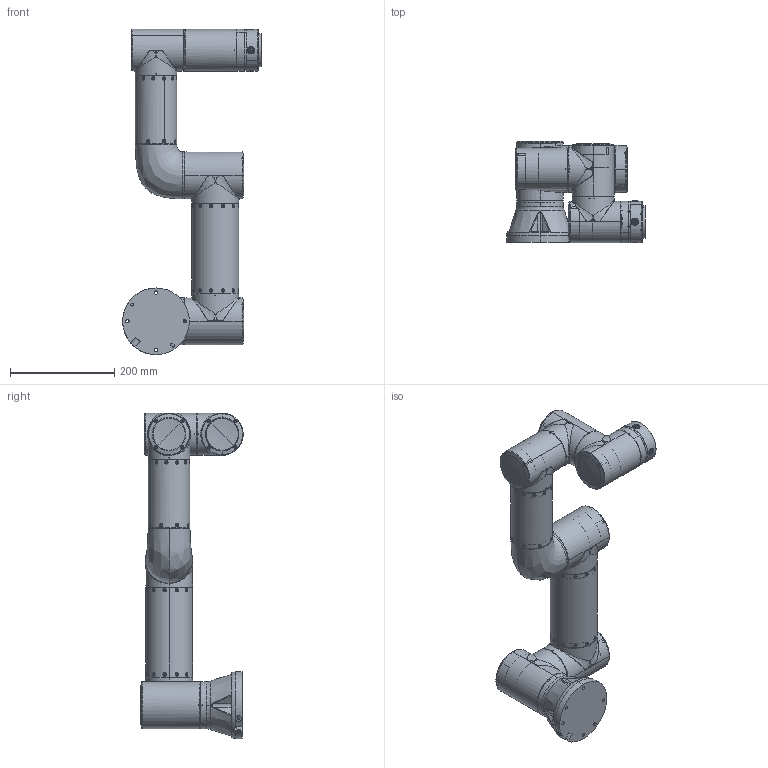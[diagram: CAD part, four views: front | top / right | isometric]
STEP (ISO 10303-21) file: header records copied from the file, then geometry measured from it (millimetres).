
FILE_DESCRIPTION (( 'STEP AP203' ), '1' );
FILE_NAME ('RD37.3-FR3WMS-V1.0.STEP', '2025-01-07T11:08:56', ( '' ), ( '' ), 'SwSTEP 2.0', 'SolidWorks 2018', '' );
FILE_SCHEMA (( 'CONFIG_CONTROL_DESIGN' ));
Length unit declared in the file: millimetre
Products named in the file (7): RD37.3-FR3WMS-V1.0-3; RD37.3-FR3WMS-V1.0-2; RD37.3-FR3WMS-V1.0-5; RD37.3-FR3WMS-V1.0-7; RD37.3-FR3WMS-V1.0-1; RD37.3-FR3WMS-V1.0-4; RD37.3-FR3WMS-V1.0
Assembly tree (7 placements, depth 2):
  RD37.3-FR3WMS-V1.0
    RD37.3-FR3WMS-V1.0-1
    RD37.3-FR3WMS-V1.0-2
    RD37.3-FR3WMS-V1.0-3
    RD37.3-FR3WMS-V1.0-4
    RD37.3-FR3WMS-V1.0-5  x2
    RD37.3-FR3WMS-V1.0-7
Bounding box: 266 x 195.99 x 624 mm (x, y, z)
Volume: 7260791.3 mm3; surface area: 792153.7 mm2
Topology: 55 solids, 92 shells, 3275 faces, 7945 edges, 4958 vertices
Faces by surface type: plane 1438, cylinder 962, cone 489, bspline 308, torus 60, sphere 18
Entity records: 141388 total; most frequent: CARTESIAN_POINT 70856, ORIENTED_EDGE 14616, DIRECTION 14280, EDGE_CURVE 7308, AXIS2_PLACEMENT_3D 5454, VERTEX_POINT 4619, EDGE_LOOP 3387, LINE 3372
